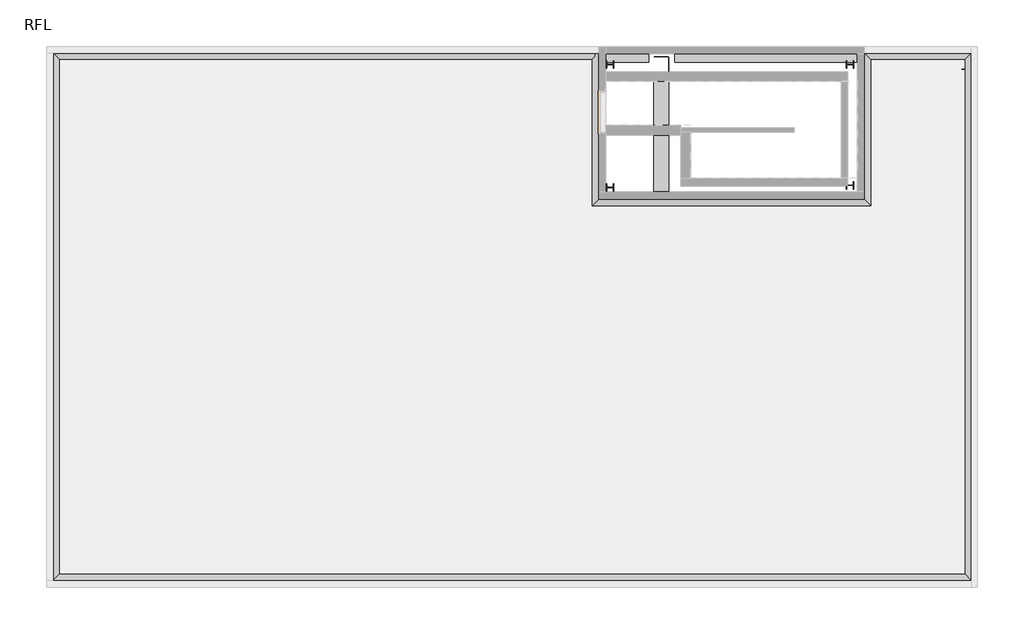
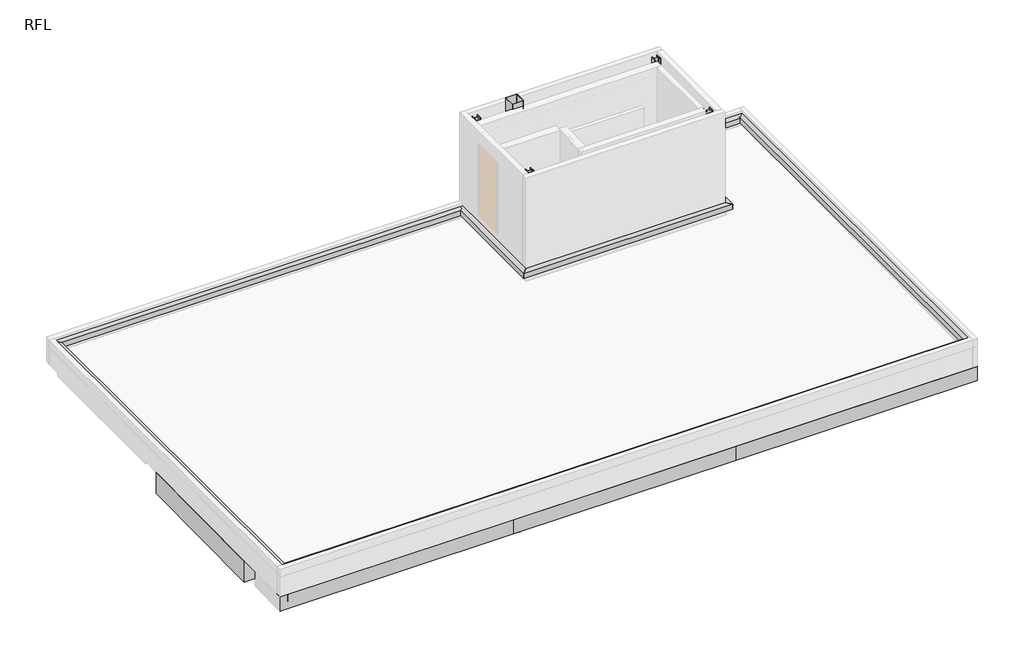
# One storey, part 2 of 2: 25 beams, 7 proxies, 5 columns.
"""IFC4 building model written with IfcOpenShell, lengths in millimetres."""

from ifc_helpers import new_model, si_unit, frame, origin, place, context, project, spatial, polyline, outline, extrude, faceted_brep, transform, mapped, element, save
from components import rc_sg1_400x180_0dba03ef, rc_sg1_600x300_97302bae, column_2520c348, column_aeb8c624, column_5af704a6

model = new_model("IFC4")

# Units and contexts
model_context = context("Model", 3, world=origin())
ifc_project = project(units=[si_unit("LENGTHUNIT", "METRE", prefix="MILLI")], contexts=[model_context])

# Site, building, storey
site = spatial("IfcSite", under=ifc_project)
building = spatial("IfcBuilding", under=site)
storey = spatial("IfcBuildingStorey", under=building, Name="RFL", Elevation=10000.0)

# Beams
placement = place(None, origin())
element("IfcBeam", 1, ObjectType="RC : SG1(400X180)", at=placement, inside=storey, context=model_context, shape_type="SweptSolid", body=[
    extrude(outline(polyline([(-250.0, 9458.724263), (-1406.7035295, 9449.3223382), (-1406.7903198, 9460.0), (-1230.0, 9460.0), (-1230.0, 9850.7718342), (-250.0, 9858.7374764), (-250.0, 9458.724263)])), frame((6000.0, 0.0, 0.0), z_axis=(1.0, 0.0, 0.0), x_axis=(0.0, 1.0, 0.0)), (0.0, 0.0, 1.0), 180.0),
])
element("IfcBeam", 2, ObjectType="RC : SG1(400X180)", at=placement, inside=storey, context=model_context, shape_type="Brep", body=[
    faceted_brep([(12000.0, -1406.4091607, 9449.2147387), (12180.0, -1406.4091607, 9449.2147387), (12180.0, -1406.5051662, 9460.0), (12000.0, -1406.5051662, 9460.0), (12180.0, -1275.0, 9450.3844841), (12180.0, -250.0, 9459.5085739), (12180.0, -250.0, 9859.5244211), (12180.0, -1230.0, 9850.8009011), (12180.0, -1230.0, 9460.0), (12180.0, -1275.0, 9460.0), (12000.0, -250.0, 9859.5244211), (12000.0, -1230.0, 9850.8009011), (12000.0, -250.0, 9459.5085739), (12000.0, -1275.0, 9450.3844841), (12000.0, -1275.0, 9460.0), (12000.0, -1230.0, 9460.0)], [[[0, 1, 2, 3]], [[1, 4, 5, 6, 7, 8, 9, 2]], [[6, 10, 11, 7]], [[12, 13, 0, 3, 14, 15, 11, 10]], [[1, 0, 13, 12, 5, 4]], [[6, 5, 12, 10]], [[15, 8, 7, 11]], [[8, 15, 14, 3, 2, 9]]]),
])
element("IfcBeam", 3, ObjectType="RC : SG1(400X180)", at=placement, inside=storey, context=model_context, shape_type="SweptSolid", body=[
    extrude(outline(polyline([(0.0, -180.0), (0.0, 0.0), (2834.0294837, 0.0), (2834.0294837, -180.0), (0.0, -180.0)])), frame((10770.0206816, 6307.142832, 9526.5998648), z_axis=(0.0, -0.010232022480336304, 0.9999476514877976), x_axis=(0.0, 0.9999476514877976, 0.010232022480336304)), (0.0, 0.0, 1.0), 400.0),
])
element("IfcBeam", 4, ObjectType="RC : SG1(400X180)", at=placement, inside=storey, context=model_context, shape_type="Brep", body=[
    faceted_brep([(16054.9912882, 6500.0796066, 9527.6741118), (16054.9910901, 6500.0796065, 9927.6741118), (16054.9998019, 6320.0796068, 9927.6741118), (16055.0, 6320.0796068, 9527.6741118), (10950.0208797, 6499.8325307, 9527.6715836), (10950.0295916, 6319.8325309, 9527.6715836), (10950.0293935, 6319.8325309, 9927.6715836), (10950.0206816, 6499.8325307, 9927.6715836), (16040.0, 6500.078881, 9527.6741044), (11490.0, 6499.8586652, 9527.671851), (11490.0, 6499.8586652, 9927.671851), (16040.0, 6500.078881, 9927.6741044)], [[[0, 1, 2, 3]], [[4, 5, 6, 7]], [[1, 0, 8, 9, 4, 7, 10, 11]], [[2, 1, 11, 10, 7, 6]], [[3, 2, 6, 5]], [[0, 3, 5, 4, 9, 8]]]),
])
rc_sg1_400x180_shape = rc_sg1_400x180_0dba03ef(model_context)
element("IfcBeam", 5, ObjectType="RC : SG1(400X180)", at=placement, inside=storey, context=model_context, shape_type="MappedRepresentation", body=[
    mapped(rc_sg1_400x180_shape, transform((16145.0, 7767.2401945, 9741.5508662), x_axis=(0.0, 0.9999476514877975, 0.010232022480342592), y_axis=(-1.0, 0.0, 0.0), z_axis=(0.0, -0.010232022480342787, 0.9999476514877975))),
])
element("IfcBeam", 6, ObjectType="RC : SG1(600X300)", at=placement, inside=storey, context=model_context, shape_type="Brep", body=[
    faceted_brep([(5852.6999994, 150.0, 9270.0), (5852.6999994, 150.0, 9865.2712565), (5852.6999994, 150.0, 9870.0), (5852.6999994, -150.0, 9870.0), (5852.6999994, -150.0, 9862.2342798), (5852.6999994, -150.0, 9270.0), (237.3000006, 150.0, 9270.0), (237.3000006, -150.0, 9270.0), (237.3000006, -150.0, 9862.2342798), (237.3000006, -150.0, 9870.0), (237.3000006, 150.0, 9870.0), (237.3000006, 150.0, 9865.2712565)], [[[0, 1, 2, 3, 4, 5]], [[6, 7, 8, 9, 10, 11]], [[2, 1, 0, 6, 11, 10]], [[3, 2, 10, 9]], [[5, 4, 3, 9, 8, 7]], [[0, 5, 7, 6]]]),
])
element("IfcBeam", 7, ObjectType="RC : SG1(600X300)", at=placement, inside=storey, context=model_context, shape_type="SweptSolid", body=[
    extrude(outline(polyline([(11840.0, 150.0), (11840.0, -150.0), (6340.0000006, -150.0), (6340.0000006, 150.0), (11840.0, 150.0)])), frame((0.0, 0.0, 9270.0), z_axis=(0.0, 0.0, 1.0), x_axis=(1.0, 0.0, 0.0)), (0.0, 0.0, 1.0), 600.0),
])
element("IfcBeam", 8, ObjectType="RC : SG1(600X300)", at=placement, inside=storey, context=model_context, shape_type="Brep", body=[
    faceted_brep([(17929.9999994, 150.0, 9270.0), (17929.9999994, 150.0, 9865.2712565), (17929.9999994, 150.0, 9870.0), (17929.9999994, -150.0, 9870.0), (17929.9999994, -150.0, 9862.2342798), (17929.9999994, -150.0, 9270.0), (12340.0000006, 150.0, 9270.0), (12340.0000006, -150.0, 9270.0), (12340.0000006, -150.0, 9862.2342798), (12340.0000006, -150.0, 9870.0), (12340.0000006, 150.0, 9870.0), (12340.0000006, 150.0, 9865.2712565)], [[[0, 1, 2, 3, 4, 5]], [[6, 7, 8, 9, 10, 11]], [[2, 1, 0, 6, 11, 10]], [[3, 2, 10, 9]], [[5, 4, 3, 9, 8, 7]], [[0, 5, 7, 6]]]),
])
element("IfcBeam", 9, ObjectType="RC : SG1(600X300)", at=placement, inside=storey, context=model_context, shape_type="SweptSolid", body=[
    extrude(outline(polyline([(5839.9999994, 4740.0), (5839.9999994, 4440.0), (250.0000006, 4440.0), (250.0000006, 4740.0), (5839.9999994, 4740.0)])), frame((0.0, 0.0, 9320.0), z_axis=(0.0, 0.0, 1.0), x_axis=(1.0, 0.0, 0.0)), (0.0, 0.0, 1.0), 600.0),
])
element("IfcBeam", 10, ObjectType="RC : SG1(600X300)", at=placement, inside=storey, context=model_context, shape_type="SweptSolid", body=[
    extrude(outline(polyline([(11840.0, 4740.0), (11840.0, 4440.0), (6340.0000006, 4440.0), (6340.0000006, 4740.0), (11840.0, 4740.0)])), frame((0.0, 0.0, 9360.0), z_axis=(0.0, 0.0, 1.0), x_axis=(1.0, 0.0, 0.0)), (0.0, 0.0, 1.0), 600.0),
])
element("IfcBeam", 11, ObjectType="RC : SG1(600X300)", at=placement, inside=storey, context=model_context, shape_type="Brep", body=[
    faceted_brep([(17929.9999994, 4740.0, 9320.0), (17929.9999994, 4740.0, 9920.0), (17929.9999994, 4440.0, 9920.0), (17929.9999994, 4440.0, 9320.0), (12340.0000006, 4740.0, 9320.0), (12340.0000006, 4440.0, 9320.0), (12340.0000006, 4440.0, 9920.0), (12340.0000006, 4740.0, 9920.0), (14040.0, 4740.0, 9320.0), (13840.0, 4740.0, 9320.0), (13840.0, 4740.0, 9920.0), (14040.0, 4740.0, 9920.0), (13840.0, 4440.0, 9920.0), (14040.0, 4440.0, 9920.0), (13840.0, 4440.0, 9320.0), (14040.0, 4440.0, 9320.0)], [[[0, 1, 2, 3]], [[4, 5, 6, 7]], [[1, 0, 8, 9, 4, 7, 10, 11]], [[2, 1, 11, 10, 7, 6, 12, 13]], [[3, 2, 13, 12, 6, 5, 14, 15]], [[0, 3, 15, 14, 5, 4, 9, 8]]]),
])
element("IfcBeam", 12, ObjectType="RC : SG1(600X300)", at=placement, inside=storey, context=model_context, shape_type="SweptSolid", body=[
    extrude(outline(polyline([(0.0, -300.0), (0.0, 0.0), (4084.0745817, 0.0), (4084.0745817, -300.0), (0.0, -300.0)])), frame((6240.0, 8930.0, 9352.6409783), z_axis=(0.0, -0.010232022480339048, 0.9999476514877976), x_axis=(0.0, -0.9999476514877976, -0.010232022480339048)), (0.0, 0.0, 1.0), 600.0),
])
element("IfcBeam", 13, ObjectType="RC : SG1(600X300)", at=placement, inside=storey, context=model_context, shape_type="Brep", body=[
    faceted_brep([(11940.0, 4340.0, 9306.4604911), (11940.0, 4333.8607865, 9906.429082), (12240.0, 4333.8607865, 9906.429082), (12240.0, 4340.0, 9306.4604911), (11940.0, 256.1392135, 9264.6721482), (12240.0, 256.1392135, 9264.6721482), (12240.0, 250.0, 9864.6407391), (11940.0, 250.0, 9864.6407391), (11940.0, 4190.0, 9304.9256074), (11940.0, 3990.0, 9302.8790958), (11940.0, 3990.0, 9902.9105065), (11940.0, 4190.0, 9904.9570182), (12240.0, 3990.0, 9902.9105065), (12240.0, 4190.0, 9904.9570182), (12240.0, 3990.0, 9302.8790958), (12240.0, 4190.0, 9304.9256074)], [[[0, 1, 2, 3]], [[4, 5, 6, 7]], [[1, 0, 8, 9, 4, 7, 10, 11]], [[2, 1, 11, 10, 7, 6, 12, 13]], [[3, 2, 13, 12, 6, 5, 14, 15]], [[0, 3, 15, 14, 5, 4, 9, 8]]]),
])
element("IfcBeam", 14, ObjectType="RC : SG1(600X300)", at=placement, inside=storey, context=model_context, shape_type="SweptSolid", body=[
    extrude(outline(polyline([(0.0, -300.0), (0.0, 0.0), (4084.0745817, 0.0), (4084.0745817, -300.0), (0.0, -300.0)])), frame((12240.0, 8930.0, 9353.427933), z_axis=(0.0, -0.010232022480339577, 0.9999476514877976), x_axis=(0.0, -0.9999476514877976, -0.010232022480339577)), (0.0, 0.0, 1.0), 600.0),
])
rc_sg1_600x300_shape = rc_sg1_600x300_97302bae(model_context)
element("IfcBeam", 15, ObjectType="RC : SG1(600X300)", at=placement, inside=storey, context=model_context, shape_type="MappedRepresentation", body=[
    mapped(rc_sg1_600x300_shape, transform((6090.0, 2297.9225827, 9584.793566), x_axis=(0.0, 0.9999476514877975, 0.010232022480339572), y_axis=(-1.0, 0.0, 0.0), z_axis=(0.0, -0.01023202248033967, 0.9999476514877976))),
])
element("IfcBeam", 16, ObjectType="RC_2 : SG1(400X180)", at=placement, inside=storey, context=model_context, shape_type="Brep", body=[
    faceted_brep([(5987.1460713, -1230.0, 9460.0), (5987.1460713, -1230.0, 9860.0), (5987.1460713, -1420.0, 9860.0), (5987.1460713, -1420.0, 9460.0), (-270.0, -1420.0, 9860.0), (-270.0, -1290.0, 9860.0), (-270.0, -1230.0, 9860.0), (-270.0, -1230.0, 9850.972093), (-270.0, -1409.9955504, 9849.1302781), (-270.0, -1406.0137522, 9460.0), (-270.0, -1420.0, 9460.0), (-70.0, -1230.0, 9460.0), (-70.0, -1230.0, 9850.972093), (-125.0, -1420.0, 9460.0), (-125.0, -1406.0137522, 9460.0), (-70.0, -1406.0137522, 9460.0), (-70.0, -1409.9955504, 9849.1302781)], [[[0, 1, 2, 3]], [[4, 5, 6, 7, 8, 9, 10]], [[1, 0, 11, 12, 7, 6]], [[2, 1, 6, 5, 4]], [[3, 2, 4, 10, 13]], [[0, 3, 13, 10, 9, 14, 15, 11]], [[8, 16, 15, 14, 9]], [[15, 16, 12, 11]], [[16, 8, 7, 12]]]),
])
element("IfcBeam", 17, ObjectType="RC_2 : SG1(400X180)", at=placement, inside=storey, context=model_context, shape_type="Brep", body=[
    faceted_brep([(5987.1460725, -1230.0, 9460.0), (5987.1460725, -1420.0, 9460.0), (5987.1460725, -1420.0, 9860.0), (5987.1460725, -1230.0, 9860.0), (11961.9000006, -1230.0, 9860.0), (11961.9000006, -1230.0, 9460.0), (6180.0, -1230.0, 9460.0), (6000.0, -1230.0, 9460.0), (11961.9000006, -1420.0, 9860.0), (11961.9000006, -1420.0, 9460.0)], [[[0, 1, 2, 3]], [[0, 3, 4, 5, 6, 7]], [[3, 2, 8, 4]], [[2, 1, 9, 8]], [[1, 0, 7, 6, 5, 9]], [[5, 4, 8, 9]]]),
])
element("IfcBeam", 18, ObjectType="RC_2 : SG1(400X180)", at=placement, inside=storey, context=model_context, shape_type="Brep", body=[
    faceted_brep([(18450.0, -1230.0, 9860.0), (18450.0, -1420.0, 9860.0), (18450.0, -1420.0, 9460.0), (18450.0, -1330.8043055, 9460.0), (18450.0, -1334.687465, 9850.6224345), (18450.0, -1230.0, 9851.6631278), (11961.9000006, -1230.0, 9460.0), (11961.9000006, -1420.0, 9460.0), (11961.9000006, -1420.0, 9860.0), (11961.9000006, -1230.0, 9860.0), (18320.0, -1230.0, 9860.0), (18320.0, -1230.0, 9851.6631278), (18250.0, -1230.0, 9851.6631278), (18250.0, -1230.0, 9460.0), (12180.0, -1230.0, 9460.0), (12000.0, -1230.0, 9460.0), (18320.0, -1420.0, 9860.0), (18250.0, -1275.0, 9460.0), (18250.0, -1330.8043055, 9460.0), (18250.0, -1334.687465, 9850.6224345)], [[[0, 1, 2, 3, 4, 5]], [[6, 7, 8, 9]], [[6, 9, 10, 0, 5, 11, 12, 13, 14, 15]], [[1, 0, 10, 9, 8, 16]], [[2, 1, 16, 8, 7]], [[7, 6, 15, 14, 13, 17, 18, 3, 2]], [[19, 4, 3, 18]], [[4, 19, 12, 11, 5]], [[19, 18, 17, 13, 12]]]),
])
element("IfcBeam", 19, ObjectType="RC_2 : SG1(400X180)", at=placement, inside=storey, context=model_context, shape_type="Brep", body=[
    faceted_brep([(18450.0, -1330.7112801, 9450.6421976), (18450.0, -1330.8043055, 9460.0), (18450.0, -1334.687465, 9850.6224345), (18250.0, -1334.687465, 9850.6224345), (18250.0, -1330.8043055, 9460.0), (18250.0, -1330.7112801, 9450.6421976), (18450.0, -1275.0, 9451.1960208), (18450.0, -250.0, 9461.3854982), (18450.0, -250.0, 9861.4052622), (18450.0, -1230.0, 9851.6631278), (18320.0, -250.0, 9861.4052622), (18250.0, -250.0, 9861.4052622), (18250.0, -1230.0, 9851.6631278), (18250.0, -250.0, 9461.3854982), (18250.0, -1275.0, 9451.1960208), (18305.0, -250.0, 9461.3854982)], [[[0, 1, 2, 3, 4, 5]], [[2, 1, 0, 6, 7, 8, 9]], [[3, 2, 9, 8, 10, 11, 12]], [[5, 4, 3, 12, 11, 13, 14]], [[0, 5, 14, 13, 15, 7, 6]], [[8, 7, 15, 13, 11, 10]]]),
])
element("IfcBeam", 20, ObjectType="RC_2 : SG1(600X300)", at=placement, inside=storey, context=model_context, shape_type="Brep", body=[
    faceted_brep([(18130.0, 8998.1097598, 9954.9104457), (18320.0, 8998.1097598, 9954.9104457), (18450.0, 8998.1097598, 9954.9104457), (18450.0, 8998.119076, 9954.0), (18320.0, 8998.119076, 9954.0), (18130.0, 8998.119076, 9954.0), (18130.0, 4804.5889302, 9912.0), (18130.0, 8930.0, 9954.0), (18130.0, 8930.0, 9354.1820979), (18130.0, 4840.0, 9312.3309351), (18130.0, 4840.0, 9912.0), (18320.0, 4804.5889302, 9912.0), (18450.0, 4804.5889302, 9912.0), (18450.0, 4840.0, 9912.0), (18450.0, 4840.0, 9312.3309351), (18450.0, 4852.4999832, 9312.4588419), (18450.0, 8930.0, 9354.1820979), (18450.0, 8930.0, 9954.0), (18305.0, 4840.0, 9312.3309351), (18305.0, 8930.0, 9354.1820979)], [[[0, 1, 2, 3, 4, 5]], [[6, 0, 5, 7, 8, 9, 10]], [[2, 1, 0, 6, 11, 12]], [[2, 12, 13, 14, 15, 16, 17, 3]], [[14, 18, 9, 8, 19, 16, 15]], [[10, 9, 18, 14, 13]], [[7, 17, 16, 19, 8]], [[10, 13, 12, 11, 6]], [[17, 7, 5, 4, 3]]]),
])
element("IfcBeam", 21, ObjectType="RC_2 : SG1(600X300)", at=placement, inside=storey, context=model_context, shape_type="Brep", body=[
    faceted_brep([(-270.0, 250.0, 9266.0848683), (-270.0, 250.0, 9866.1162791), (-270.0, 4340.0, 9907.9674419), (-270.0, 4340.0, 9307.9360311), (-140.0, 250.0, 9866.1162791), (50.0, 250.0, 9866.1162791), (50.0, 4340.0, 9907.9674419), (-140.0, 4340.0, 9907.9674419), (50.0, 250.0, 9266.0848683), (50.0, 4340.0, 9307.9360311), (-125.0, 250.0, 9266.0848683), (-125.0, 4340.0, 9307.9360311)], [[[0, 1, 2, 3]], [[1, 4, 5, 6, 7, 2]], [[5, 8, 9, 6]], [[8, 10, 0, 3, 11, 9]], [[1, 0, 10, 8, 5, 4]], [[3, 2, 7, 6, 9, 11]]]),
])
element("IfcBeam", 22, ObjectType="RC_2 : SG1(600X300)", at=placement, inside=storey, context=model_context, shape_type="Brep", body=[
    faceted_brep([(5840.0, 9450.0, 9360.0), (5840.0, 9450.0, 9954.0), (5840.0, 9450.0, 9960.0), (5840.0, 9320.0, 9960.0), (5840.0, 9130.0, 9960.0), (5840.0, 9130.0, 9360.0), (5840.0, 9305.0, 9360.0), (250.0, 9450.0, 9360.0), (250.0, 9305.0, 9360.0), (250.0, 9130.0, 9360.0), (250.0, 9130.0, 9960.0), (250.0, 9320.0, 9960.0), (250.0, 9450.0, 9960.0), (250.0, 9450.0, 9954.0)], [[[0, 1, 2, 3, 4, 5, 6]], [[7, 8, 9, 10, 11, 12, 13]], [[2, 1, 0, 7, 13, 12]], [[4, 3, 2, 12, 11, 10]], [[5, 4, 10, 9]], [[0, 6, 5, 9, 8, 7]]]),
])
element("IfcBeam", 23, ObjectType="RC_2 : SG1(600X300)", at=placement, inside=storey, context=model_context, shape_type="Brep", body=[
    faceted_brep([(11840.0, 9450.0, 9360.0), (11840.0, 9450.0, 9955.0), (11840.0, 9450.0, 9960.0), (11840.0, 9305.0, 9960.0), (11840.0, 9130.0, 9960.0), (11840.0, 9130.0, 9360.0), (11840.0, 9305.0, 9360.0), (6340.0000006, 9450.0, 9360.0), (6340.0000006, 9130.0, 9360.0), (6340.0000006, 9130.0, 9960.0), (6340.0000006, 9320.0, 9960.0), (6340.0000006, 9450.0, 9960.0), (6340.0000006, 9450.0, 9954.0), (10902.5, 9450.0, 9960.0)], [[[0, 1, 2, 3, 4, 5, 6]], [[7, 8, 9, 10, 11, 12]], [[2, 1, 0, 7, 12, 11, 13]], [[4, 3, 2, 13, 11, 10, 9]], [[5, 4, 9, 8]], [[0, 6, 5, 8, 7]]]),
])
element("IfcBeam", 24, ObjectType="RC_2 : SG1(600X300)", at=placement, inside=storey, context=model_context, shape_type="Brep", body=[
    faceted_brep([(17929.9999994, 9450.0, 9360.0), (17929.9999994, 9450.0, 9954.0), (17929.9999994, 9450.0, 9960.0), (17929.9999994, 9320.0, 9960.0), (17929.9999994, 9130.0, 9960.0), (17929.9999994, 9130.0, 9360.0), (12360.0, 9450.0, 9360.0), (12360.0, 9305.0, 9360.0), (12360.0, 9130.0, 9360.0), (12360.0, 9130.0, 9960.0), (12360.0, 9305.0, 9960.0), (12360.0, 9450.0, 9960.0), (12360.0, 9450.0, 9955.0), (16102.5, 9450.0, 9960.0)], [[[0, 1, 2, 3, 4, 5]], [[6, 7, 8, 9, 10, 11, 12]], [[2, 1, 0, 6, 12, 11, 13]], [[4, 3, 2, 13, 11, 10, 9]], [[5, 4, 9, 8]], [[0, 5, 8, 7, 6]]]),
])
element("IfcBeam", 25, ObjectType="RC_2 : SG1(600X300)", at=placement, inside=storey, context=model_context, shape_type="Brep", body=[
    faceted_brep([(18130.0, 4340.0, 9907.2460668), (18130.0, 4340.0, 9407.2198911), (18130.0, 250.0, 9365.3687283), (18130.0, 250.0, 9865.0), (18130.0, 211.407112, 9865.0), (18450.0, 4340.0, 9907.2460668), (18320.0, 4340.0, 9907.2460668), (18320.0, 211.407112, 9865.0), (18450.0, 211.407112, 9865.0), (18450.0, 4340.0, 9407.2198911), (18450.0, 250.0, 9865.0), (18450.0, 250.0, 9365.3687283), (18450.0, 262.4999009, 9365.4966343), (18450.0, 4327.5000178, 9407.0919843), (18305.0, 4340.0, 9407.2198911), (18305.0, 250.0, 9365.3687283)], [[[0, 1, 2, 3, 4]], [[5, 6, 0, 4, 7, 8]], [[9, 5, 8, 10, 11, 12, 13]], [[1, 0, 6, 5, 9, 14]], [[10, 3, 2, 15, 11]], [[1, 14, 9, 13, 12, 11, 15, 2]], [[3, 10, 8, 7, 4]]]),
])

# Proxies
element("IfcBuildingElementProxy", 26, Name="PRP1", ObjectType="PRP1", at=placement, inside=storey, context=model_context, shape_type="Brep", body=[
    faceted_brep([(16175.0, 9327.5, 10580.0), (16305.0, 9327.5, 10561.3), (16305.0, 9327.5, 10420.0), (16175.0, 9327.5, 10420.0), (16175.0, 6380.0, 10580.0), (16175.0, 6380.0, 10420.0), (16305.0, 6250.0, 10420.0), (16305.0, 6250.0, 10561.3), (16175.0, 9305.0, 10420.0), (16175.0, 6525.0, 10420.0)], [[[0, 1, 2, 3]], [[4, 5, 6, 7]], [[0, 3, 8, 9, 5, 4]], [[1, 0, 4, 7]], [[2, 1, 7, 6]], [[3, 2, 6, 5, 9, 8]]]),
])
element("IfcBuildingElementProxy", 27, Name="PRP1", ObjectType="PRP1", at=placement, inside=storey, context=model_context, shape_type="Brep", body=[
    faceted_brep([(10830.0, 6380.0, 10580.0), (10700.0, 6250.0, 10561.3), (10700.0, 6250.0, 10420.0), (10830.0, 6380.0, 10420.0), (10830.0, 9320.0, 10580.0), (10830.0, 9320.0, 10420.0), (10757.5, 9320.0, 10420.0), (10757.5, 9320.0, 10569.5711538), (10757.5, 9247.5, 10569.5711538), (10700.0, 9190.0, 10561.3), (10700.0, 9190.0, 10420.0), (10757.5, 9190.0, 10420.0), (10830.0, 6525.0, 10420.0), (10757.5, 9190.0, 10561.3)], [[[0, 1, 2, 3]], [[4, 5, 6, 7]], [[1, 0, 4, 7, 8, 9]], [[2, 1, 9, 10]], [[3, 2, 10, 11, 6, 5, 12]], [[0, 3, 12, 5, 4]], [[11, 13, 8, 7, 6]], [[13, 9, 8]], [[13, 11, 10, 9]]]),
    faceted_brep([(16175.0, 6380.0, 10580.0), (16305.0, 6250.0, 10561.3), (16305.0, 6250.0, 10420.0), (16175.0, 6380.0, 10420.0), (10700.0, 6250.0, 10561.3), (10830.0, 6380.0, 10580.0), (10830.0, 6380.0, 10420.0), (10700.0, 6250.0, 10420.0)], [[[0, 1, 2, 3]], [[4, 5, 6, 7]], [[1, 0, 5, 4]], [[2, 1, 4, 7]], [[3, 2, 7, 6]], [[0, 3, 6, 5]]]),
])
element("IfcBuildingElementProxy", 28, Name="PRP1", ObjectType="PRP1", at=placement, inside=storey, context=model_context, shape_type="Brep", body=[
    faceted_brep([(18330.0, -1290.0, 10580.0), (18320.0, -1290.0, 10578.5615385), (18200.0, -1290.0, 10561.3), (18200.0, -1290.0, 10420.0), (18330.0, -1290.0, 10420.0), (18330.0, 9320.0, 10580.0), (18330.0, 9320.0, 10420.0), (18200.0, 9320.0, 10420.0), (18200.0, 9320.0, 10561.3), (18320.0, 9320.0, 10578.5615385), (18200.0, 9190.0, 10561.3), (18200.0, -1160.0, 10561.3), (18200.0, 9190.0, 10420.0), (18200.0, -1160.0, 10420.0)], [[[0, 1, 2, 3, 4]], [[5, 6, 7, 8, 9]], [[2, 1, 0, 5, 9, 8, 10, 11]], [[3, 2, 11, 10, 8, 7, 12, 13]], [[4, 3, 13, 12, 7, 6]], [[0, 4, 6, 5]]]),
])
element("IfcBuildingElementProxy", 29, Name="PRP1", ObjectType="PRP1", at=placement, inside=storey, context=model_context, shape_type="Brep", body=[
    faceted_brep([(18320.0, -1290.0, 10580.0), (18320.0, -1290.0, 10578.5615385), (18320.0, -1280.0, 10578.5615385), (-140.0, -1290.0, 10420.0), (-140.0, -1290.0, 10580.0), (-140.0, -1160.0, 10561.3), (-140.0, -1160.0, 10420.0), (18200.0, -1290.0, 10420.0), (18200.0, -1290.0, 10561.3), (-10.0, -1160.0, 10420.0), (18200.0, -1160.0, 10420.0), (-10.0, -1160.0, 10561.3), (18200.0, -1160.0, 10561.3)], [[[0, 1, 2]], [[3, 4, 5, 6]], [[4, 3, 7, 8, 1, 0]], [[3, 6, 9, 10, 7]], [[6, 5, 11, 12, 10, 9]], [[5, 4, 0, 2, 12, 11]], [[8, 12, 2, 1]], [[12, 8, 7, 10]]]),
])
element("IfcBuildingElementProxy", 30, Name="PRP1", ObjectType="PRP1", at=placement, inside=storey, context=model_context, shape_type="Brep", body=[
    faceted_brep([(-140.0, 9320.0, 10420.0), (-140.0, 9320.0, 10580.0), (-10.0, 9320.0, 10561.3), (-10.0, 9320.0, 10420.0), (-140.0, -1160.0, 10420.0), (-140.0, -1160.0, 10561.3), (-140.0, -1290.0, 10580.0), (-10.0, 9190.0, 10420.0), (-10.0, -1160.0, 10420.0), (-10.0, 9190.0, 10561.3), (-10.0, -1160.0, 10561.3)], [[[0, 1, 2, 3]], [[1, 0, 4, 5, 6]], [[0, 3, 7, 8, 4]], [[3, 2, 9, 10, 8, 7]], [[2, 1, 6, 10, 9]], [[10, 5, 4, 8]], [[5, 10, 6]]]),
])
element("IfcBuildingElementProxy", 31, Name="PRP1", ObjectType="PRP1", at=placement, inside=storey, context=model_context, shape_type="Brep", body=[
    faceted_brep([(10757.5, 9320.0, 10580.0), (10757.5, 9247.5, 10569.5711538), (10757.5, 9190.0, 10561.3), (10757.5, 9190.0, 10420.0), (10757.5, 9320.0, 10420.0), (10757.5, 9320.0, 10569.5711538), (-140.0, 9320.0, 10580.0), (-10.0, 9190.0, 10561.3), (10700.0, 9190.0, 10561.3), (-10.0, 9190.0, 10420.0), (10700.0, 9190.0, 10420.0), (-10.0, 9320.0, 10420.0), (-10.0, 9320.0, 10561.3)], [[[0, 1, 2, 3, 4, 5]], [[2, 1, 0, 6, 7, 8]], [[3, 2, 8, 7, 9, 10]], [[4, 3, 10, 9, 11]], [[0, 5, 4, 11, 12, 6]], [[7, 12, 11, 9]], [[12, 7, 6]]]),
])
element("IfcBuildingElementProxy", 32, Name="PRP1", ObjectType="PRP1", at=placement, inside=storey, context=model_context, shape_type="Brep", body=[
    faceted_brep([(18320.0, 9320.0, 10580.0), (18320.0, 9310.0, 10578.5615385), (18320.0, 9320.0, 10578.5615385), (16175.0, 9190.0, 10561.3), (16175.0, 9320.0, 10580.0), (16175.0, 9320.0, 10420.0), (16175.0, 9190.0, 10420.0), (18200.0, 9190.0, 10561.3), (18200.0, 9190.0, 10420.0), (18200.0, 9320.0, 10420.0), (18200.0, 9320.0, 10561.3)], [[[0, 1, 2]], [[3, 4, 5, 6]], [[4, 3, 7, 1, 0]], [[3, 6, 8, 7]], [[6, 5, 9, 8]], [[5, 4, 0, 2, 10, 9]], [[7, 10, 2, 1]], [[10, 7, 8, 9]]]),
])

# Columns
column_shape = column_2520c348(model_context)
element("IfcColumn", 33, ObjectType="S柱 H型x : 階名+部材名", at=placement, inside=storey, context=model_context, shape_type="MappedRepresentation", body=[
    mapped(column_shape, transform((15890.0, 9090.0, 0.0), x_axis=(0.0, -1.0, 0.0), y_axis=(1.0, 0.0, 0.0), z_axis=(0.0, 0.0, 1.0))),
])
element("IfcColumn", 34, ObjectType="S柱 H型x : 階名+部材名", at=placement, inside=storey, context=model_context, shape_type="MappedRepresentation", body=[
    mapped(column_shape, transform((11065.0, 9090.0, 0.0), x_axis=(0.0, -1.0, 0.0), y_axis=(1.0, 0.0, 0.0), z_axis=(0.0, 0.0, 1.0))),
])
column_2_shape = column_aeb8c624(model_context)
element("IfcColumn", 35, ObjectType="S柱 Box : ■鉄骨柱-角形鋼300*300*4.5（被覆）", at=placement, inside=storey, context=model_context, shape_type="MappedRepresentation", body=[
    mapped(column_2_shape, transform((12090.0, 9090.0, 0.0), x_axis=(1.0, 0.0, 0.0), y_axis=(0.0, 1.0, 0.0), z_axis=(0.0, 0.0, 1.0))),
])
column_3_shape = column_5af704a6(model_context)
element("IfcColumn", 36, ObjectType="S柱 H型x : 階名+部材名", at=placement, inside=storey, context=model_context, shape_type="MappedRepresentation", body=[
    mapped(column_3_shape, transform((15890.0, 6660.0, 0.0), x_axis=(0.0, -1.0, 0.0), y_axis=(1.0, 0.0, 0.0), z_axis=(0.0, 0.0, 1.0))),
])
element("IfcColumn", 37, ObjectType="S柱 H型x : 階名+部材名", at=placement, inside=storey, context=model_context, shape_type="MappedRepresentation", body=[
    mapped(column_3_shape, transform((11065.0, 6615.0, 0.0), x_axis=(0.0, -1.0, 0.0), y_axis=(1.0, 0.0, 0.0), z_axis=(0.0, 0.0, 1.0))),
])

save(model, "model.ifc")
